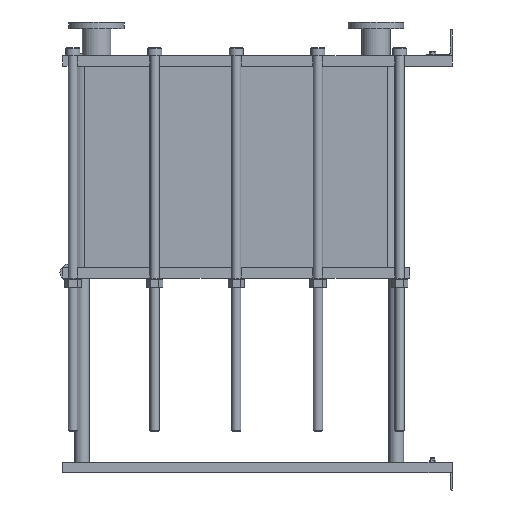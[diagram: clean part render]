
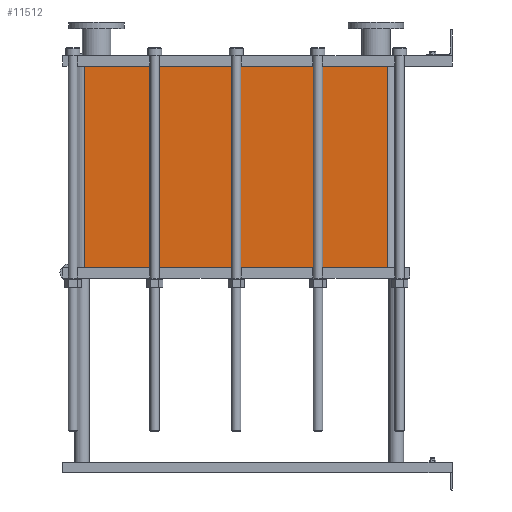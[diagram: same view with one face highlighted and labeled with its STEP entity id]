
A CAD part, left-side view. The second image highlights one B-rep face of the part: STEP entity #11512.
In plain terms, the highlighted planar face has unit normal (-1, 0, 0).
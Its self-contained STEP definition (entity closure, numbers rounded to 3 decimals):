
#1129=LINE('',#23232,#2102);
#1130=LINE('',#23236,#2103);
#1131=LINE('',#23238,#2104);
#1132=LINE('',#23239,#2105);
#2102=VECTOR('',#15887,10.);
#2103=VECTOR('',#15892,10.);
#2104=VECTOR('',#15893,10.);
#2105=VECTOR('',#15894,10.);
#3267=FACE_OUTER_BOUND('',#4093,.T.);
#4093=EDGE_LOOP('',(#10103,#10104,#10105,#10106));
#5642=VERTEX_POINT('',#23229);
#5643=VERTEX_POINT('',#23231);
#5644=VERTEX_POINT('',#23235);
#5645=VERTEX_POINT('',#23237);
#7159=EDGE_CURVE('',#5643,#5642,#1129,.T.);
#7161=EDGE_CURVE('',#5642,#5644,#1130,.T.);
#7162=EDGE_CURVE('',#5645,#5644,#1131,.T.);
#7163=EDGE_CURVE('',#5645,#5643,#1132,.T.);
#10103=ORIENTED_EDGE('',*,*,#7161,.T.);
#10104=ORIENTED_EDGE('',*,*,#7162,.F.);
#10105=ORIENTED_EDGE('',*,*,#7163,.T.);
#10106=ORIENTED_EDGE('',*,*,#7159,.T.);
#10857=PLANE('',#12751);
#11512=ADVANCED_FACE('',(#3267),#10857,.T.);
#12751=AXIS2_PLACEMENT_3D('',#23234,#15890,#15891);
#15887=DIRECTION('',(0.,0.,-1.));
#15890=DIRECTION('center_axis',(-1.,0.,0.));
#15891=DIRECTION('ref_axis',(0.,1.,0.));
#15892=DIRECTION('',(0.,-1.,0.));
#15893=DIRECTION('',(0.,0.,-1.));
#15894=DIRECTION('',(0.,1.,0.));
#23229=CARTESIAN_POINT('',(-200.,1414.,-776.25));
#23231=CARTESIAN_POINT('',(-200.,1414.,0.));
#23232=CARTESIAN_POINT('',(-200.,1414.,0.));
#23234=CARTESIAN_POINT('Origin',(-200.,248.,0.));
#23235=CARTESIAN_POINT('',(-200.,248.,-776.25));
#23236=CARTESIAN_POINT('',(-200.,539.5,-776.25));
#23237=CARTESIAN_POINT('',(-200.,248.,0.));
#23238=CARTESIAN_POINT('',(-200.,248.,0.));
#23239=CARTESIAN_POINT('',(-200.,248.,0.));
